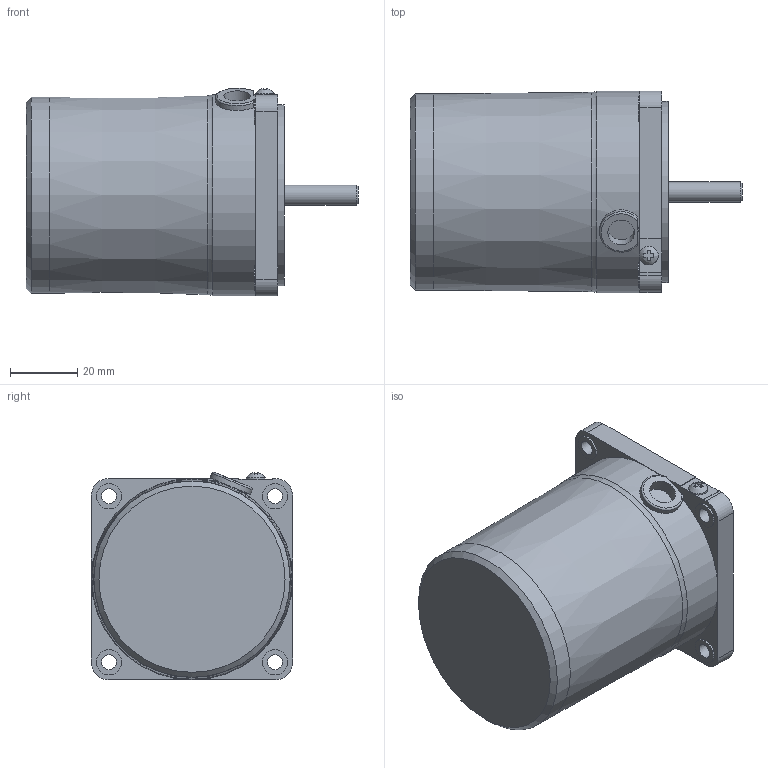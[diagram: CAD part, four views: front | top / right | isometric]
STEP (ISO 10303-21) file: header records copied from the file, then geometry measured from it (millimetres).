
FILE_DESCRIPTION(/* description */ (''),/* implementation_level */ '2;1');
FILE_NAME(/* name */ 'E:\도면작업\2016\0704) 미주향 SG 도면\3D MOTOR\SG6I06S_.stp',/* time_stamp */ '2016-07-22T13:41:33+09:00',/* author */ ('jy-jung'),/* organization */ (''),/* preprocessor_version */ 'ST-DEVELOPER v15.6',/* originating_system */ 'Autodesk Inventor 2015',/* authorisation */ '');
FILE_SCHEMA (('AUTOMOTIVE_DESIGN { 1 0 10303 214 3 1 1 }'));
Length unit declared in the file: millimetre
Products named in the file (1): 부품1
Bounding box: 99 x 60 x 61.91 mm (x, y, z)
Volume: 209984.5 mm3; surface area: 23682.6 mm2
Topology: 1 solids, 2 shells, 96 faces, 246 edges, 160 vertices
Faces by surface type: plane 60, cylinder 30, cone 3, torus 2, bspline 1
Full cylindrical faces by diameter (mm): 4.5 x4, 5.6 x1, 6 x1, 7.5 x4, 8 x1, 10.1 x1, 25 x1, 54 x1, 58.5 x1, 60 x1
Entity records: 3064 total; most frequent: CARTESIAN_POINT 626, DIRECTION 474, ORIENTED_EDGE 448, EDGE_CURVE 224, AXIS2_PLACEMENT_3D 173, VERTEX_POINT 158, EDGE_LOOP 136, LINE 128
